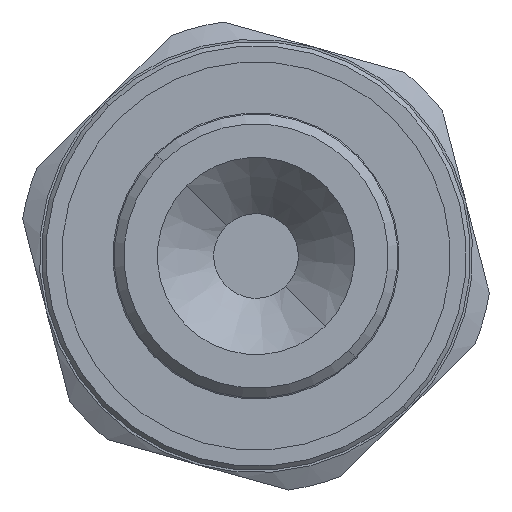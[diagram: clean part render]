
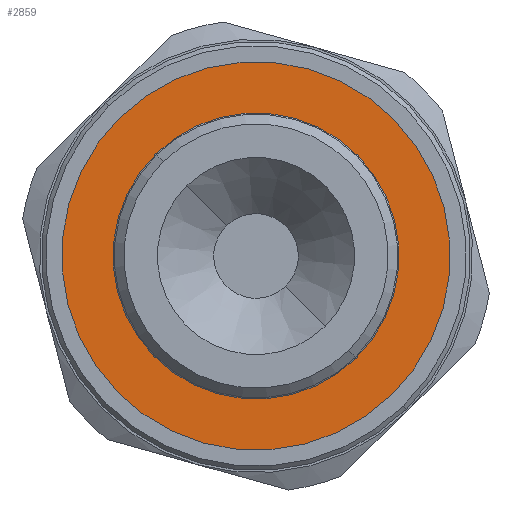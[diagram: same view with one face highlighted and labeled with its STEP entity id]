
A CAD part, left-side view. The second image highlights one B-rep face of the part: STEP entity #2859.
In plain terms, the highlighted planar face has unit normal (-1, 0, 0) as drawn and (1, 0, 0) by its records, which use the part's own axes.
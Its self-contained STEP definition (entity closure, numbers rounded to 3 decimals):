
#278 = AXIS2_PLACEMENT_3D ( 'NONE', #1844, #1809, #1823 ) ;
#372 = AXIS2_PLACEMENT_3D ( 'NONE', #2233, #2236, #2229 ) ;
#396 = AXIS2_PLACEMENT_3D ( 'NONE', #2232, #2226, #2260 ) ;
#437 = AXIS2_PLACEMENT_3D ( 'NONE', #2556, #2558, #2555 ) ;
#472 = AXIS2_PLACEMENT_3D ( 'NONE', #2550, #2553, #2554 ) ;
#652 = CIRCLE ( 'NONE', #437, 8.963 ) ;
#673 = CIRCLE ( 'NONE', #472, 5.9 ) ;
#753 = FACE_BOUND ( 'NONE', #3209, .T. ) ;
#768 = FACE_OUTER_BOUND ( 'NONE', #3229, .T. ) ;
#1442 = EDGE_CURVE ( 'NONE', #4134, #4130, #2975, .T. ) ;
#1446 = EDGE_CURVE ( 'NONE', #2584, #4070, #2943, .T. ) ;
#1556 = EDGE_CURVE ( 'NONE', #4130, #4134, #673, .T. ) ;
#1557 = EDGE_CURVE ( 'NONE', #4070, #2584, #652, .T. ) ;
#1634 = CARTESIAN_POINT ( 'NONE',  ( 10.324, 0., 8.963 ) ) ;
#1809 = DIRECTION ( 'NONE',  ( 1., 0., 0. ) ) ;
#1823 = DIRECTION ( 'NONE',  ( 0., 0., -1. ) ) ;
#1837 = PLANE ( 'NONE',  #278 ) ;
#1844 = CARTESIAN_POINT ( 'NONE',  ( 10.324, 0., 0. ) ) ;
#2087 = CARTESIAN_POINT ( 'NONE',  ( 10.324, 0., 5.9 ) ) ;
#2097 = CARTESIAN_POINT ( 'NONE',  ( 10.324, 0., -8.963 ) ) ;
#2226 = DIRECTION ( 'NONE',  ( -1., 0., 0. ) ) ;
#2229 = DIRECTION ( 'NONE',  ( 0., 0., 1. ) ) ;
#2232 = CARTESIAN_POINT ( 'NONE',  ( 10.324, 0., 0. ) ) ;
#2233 = CARTESIAN_POINT ( 'NONE',  ( 10.324, 0., 0. ) ) ;
#2236 = DIRECTION ( 'NONE',  ( -1., 0., 0. ) ) ;
#2260 = DIRECTION ( 'NONE',  ( 0., 0., 1. ) ) ;
#2345 = CARTESIAN_POINT ( 'NONE',  ( 10.324, 0., -5.9 ) ) ;
#2550 = CARTESIAN_POINT ( 'NONE',  ( 10.324, 0., 0. ) ) ;
#2553 = DIRECTION ( 'NONE',  ( -1., 0., 0. ) ) ;
#2554 = DIRECTION ( 'NONE',  ( 0., 0., 1. ) ) ;
#2555 = DIRECTION ( 'NONE',  ( 0., 0., 1. ) ) ;
#2556 = CARTESIAN_POINT ( 'NONE',  ( 10.324, 0., 0. ) ) ;
#2558 = DIRECTION ( 'NONE',  ( -1., 0., 0. ) ) ;
#2561 = ORIENTED_EDGE ( 'NONE', *, *, #1442, .T. ) ;
#2584 = VERTEX_POINT ( 'NONE', #1634 ) ;
#2609 = ORIENTED_EDGE ( 'NONE', *, *, #1557, .F. ) ;
#2632 = ORIENTED_EDGE ( 'NONE', *, *, #1446, .F. ) ;
#2648 = ORIENTED_EDGE ( 'NONE', *, *, #1556, .T. ) ;
#2859 = ADVANCED_FACE ( 'NONE', ( #753, #768 ), #1837, .T. ) ;
#2943 = CIRCLE ( 'NONE', #372, 8.963 ) ;
#2975 = CIRCLE ( 'NONE', #396, 5.9 ) ;
#3209 = EDGE_LOOP ( 'NONE', ( #2648, #2561 ) ) ;
#3229 = EDGE_LOOP ( 'NONE', ( #2632, #2609 ) ) ;
#4070 = VERTEX_POINT ( 'NONE', #2097 ) ;
#4130 = VERTEX_POINT ( 'NONE', #2087 ) ;
#4134 = VERTEX_POINT ( 'NONE', #2345 ) ;
